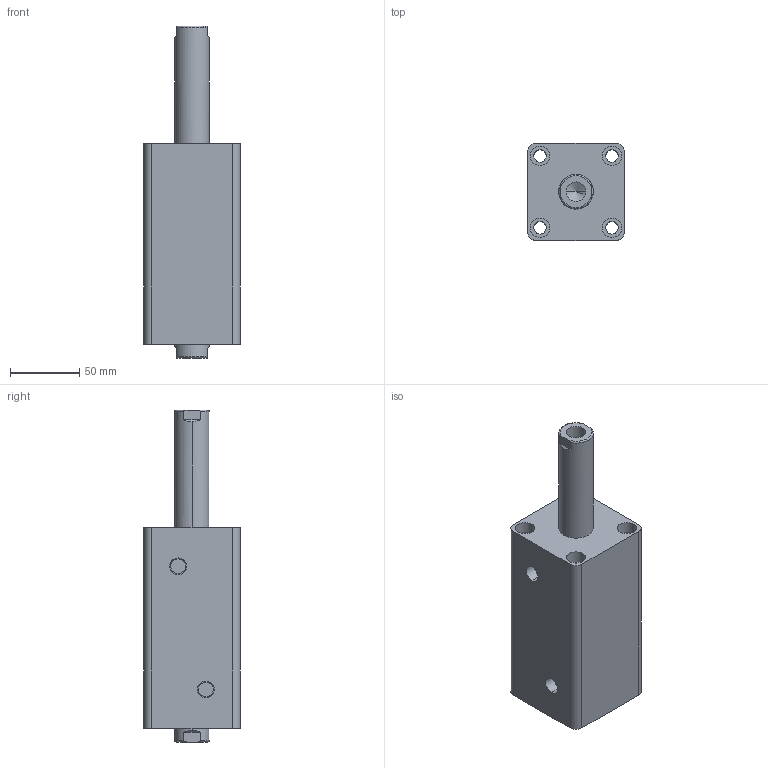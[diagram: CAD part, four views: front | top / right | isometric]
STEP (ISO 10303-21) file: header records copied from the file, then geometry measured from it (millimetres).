
FILE_DESCRIPTION (( 'STEP AP203' ), '1' );
FILE_NAME ('HTB-SW40-75N.STEP', '2019-10-07T09:11:32', ( '微软用户' ), ( '微软中国' ), 'SwSTEP 2.0', 'SolidWorks 2012', '' );
FILE_SCHEMA (( 'CONFIG_CONTROL_DESIGN' ));
Length unit declared in the file: millimetre
Products named in the file (3): HTB-SW40-75N; HTB-SW40-75N活塞杆; HTB-SW40-75掛极
Assembly tree (2 placements, depth 2):
  HTB-SW40-75N
    HTB-SW40-75掛极
    HTB-SW40-75N活塞杆
Bounding box: 70 x 70 x 240 mm (x, y, z)
Volume: 643434.5 mm3; surface area: 106405.7 mm2
Topology: 2 solids, 2 shells, 100 faces, 228 edges, 146 vertices
Faces by surface type: cylinder 48, plane 32, torus 12, cone 8
Entity records: 3237 total; most frequent: CARTESIAN_POINT 595, DIRECTION 542, ORIENTED_EDGE 448, AXIS2_PLACEMENT_3D 229, EDGE_CURVE 224, VERTEX_POINT 146, EDGE_LOOP 128, CIRCLE 124
